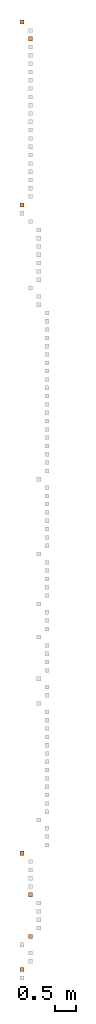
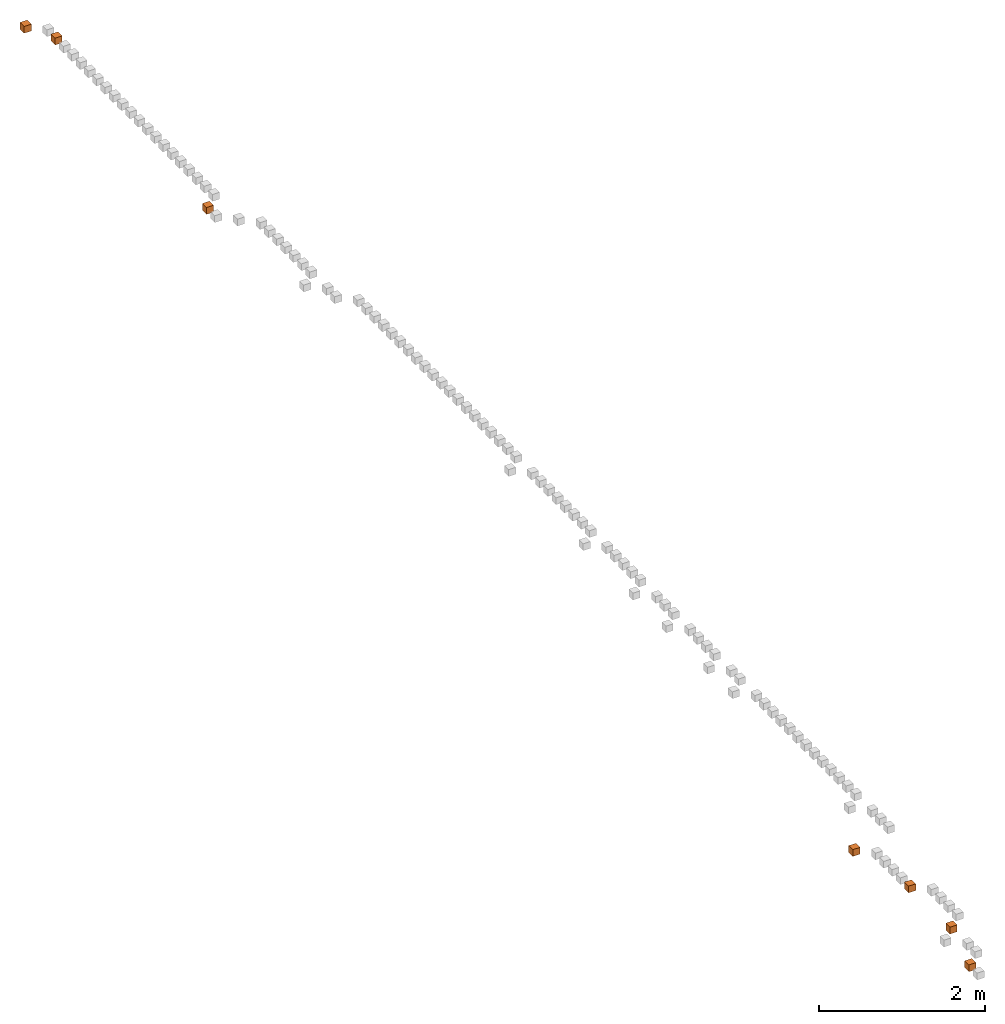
# One storey, part 7 of 7: 4 proxies, 1 civil element, 1 geographic element, 1 vibration isolator.
"""IFC4 building model written with IfcOpenShell, lengths in millimetres."""

from ifc_helpers import new_model, entity, si_unit, converted_unit, derived_unit, direction, frame, origin, origin_2d_with_axis, place, context, subcontext, project, spatial, rectangle, extrude, source, transform, mapped, material, type_object, type_shapes, element, save


model = new_model("IFC4")

# Units and contexts
model_context = context("Model", 3, precision=0.01, world=origin(), true_north=direction((6.12303176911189e-17, 1.0)))
body_context = subcontext(model_context, "Body", "Model", "MODEL_VIEW")
ifc_project = project(units=[si_unit("LENGTHUNIT", "METRE", prefix="MILLI"), si_unit("AREAUNIT", "SQUARE_METRE"), si_unit("VOLUMEUNIT", "CUBIC_METRE"), converted_unit("PLANEANGLEUNIT", "DEGREE", entity("IfcRatioMeasure", 0.0174532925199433), si_unit("PLANEANGLEUNIT", "RADIAN"), dimensions=[0, 0, 0, 0, 0, 0, 0]), si_unit("MASSUNIT", "GRAM", prefix="KILO"), derived_unit("MASSDENSITYUNIT", [(si_unit("MASSUNIT", "GRAM", prefix="KILO"), 1), (si_unit("LENGTHUNIT", "METRE"), -3)]), derived_unit("MOMENTOFINERTIAUNIT", [(si_unit("LENGTHUNIT", "METRE"), 4)]), si_unit("TIMEUNIT", "SECOND"), si_unit("FREQUENCYUNIT", "HERTZ"), si_unit("THERMODYNAMICTEMPERATUREUNIT", "DEGREE_CELSIUS"), derived_unit("THERMALTRANSMITTANCEUNIT", [(si_unit("MASSUNIT", "GRAM", prefix="KILO"), 1), (si_unit("THERMODYNAMICTEMPERATUREUNIT", "KELVIN"), -1), (si_unit("TIMEUNIT", "SECOND"), -3)]), derived_unit("VOLUMETRICFLOWRATEUNIT", [(si_unit("LENGTHUNIT", "METRE"), 3), (si_unit("TIMEUNIT", "SECOND"), -1)]), si_unit("ELECTRICCURRENTUNIT", "AMPERE"), si_unit("ELECTRICVOLTAGEUNIT", "VOLT"), si_unit("POWERUNIT", "WATT"), si_unit("FORCEUNIT", "NEWTON", prefix="KILO"), si_unit("ILLUMINANCEUNIT", "LUX"), si_unit("LUMINOUSFLUXUNIT", "LUMEN"), si_unit("LUMINOUSINTENSITYUNIT", "CANDELA"), derived_unit("USERDEFINED", [(si_unit("MASSUNIT", "GRAM", prefix="KILO"), -1), (si_unit("LENGTHUNIT", "METRE"), -2), (si_unit("TIMEUNIT", "SECOND"), 3), (si_unit("LUMINOUSFLUXUNIT", "LUMEN"), 1)]), derived_unit("LINEARVELOCITYUNIT", [(si_unit("LENGTHUNIT", "METRE"), 1), (si_unit("TIMEUNIT", "SECOND"), -1)]), si_unit("PRESSUREUNIT", "PASCAL"), derived_unit("USERDEFINED", [(si_unit("LENGTHUNIT", "METRE"), -2), (si_unit("MASSUNIT", "GRAM", prefix="KILO"), 1), (si_unit("TIMEUNIT", "SECOND"), -2)]), derived_unit("LINEARFORCEUNIT", [(si_unit("MASSUNIT", "GRAM", prefix="KILO"), 1), (si_unit("LENGTHUNIT", "METRE"), 1), (si_unit("TIMEUNIT", "SECOND"), -2), (si_unit("LENGTHUNIT", "METRE"), -1)]), derived_unit("PLANARFORCEUNIT", [(si_unit("MASSUNIT", "GRAM", prefix="KILO"), 1), (si_unit("LENGTHUNIT", "METRE"), 1), (si_unit("TIMEUNIT", "SECOND"), -2), (si_unit("LENGTHUNIT", "METRE"), -2)])], contexts=[model_context])

# Site, building, storey
site_placement = place(None, origin())
site = spatial("IfcSite", under=ifc_project, at=site_placement, Name="Default", CompositionType="ELEMENT")
building_placement = place(site_placement, origin())
building = spatial("IfcBuilding", under=site, at=building_placement, CompositionType="ELEMENT")
storey_placement = place(building_placement, origin())
storey = spatial("IfcBuildingStorey", under=building, at=storey_placement, Name="Level 1", CompositionType="ELEMENT", Elevation=0.0)

# Proxies
ifc_material = material(Name="<Unnamed>")
building_element_proxy_type = type_object("IfcBuildingElementProxyType", Name="Generic Ifc Family:Generic Ifc Family", PredefinedType="NOTDEFINED", material=ifc_material)
shared_shape_1 = source(origin(), body_context, "Body", "SweptSolid", [
    extrude(rectangle(XDim=100.0, YDim=100.0, at=origin_2d_with_axis()), frame((50.0, 50.0, 0.0), z_axis=(0.0, 0.0, 1.0), x_axis=(0.0, -1.0, 0.0)), (0.0, 0.0, 1.0), 100.0),
])
type_shapes(building_element_proxy_type, [shared_shape_1])
proxy_1_placement = place(storey_placement, frame((200.0, 23100.0, 0.0), z_axis=(0.0, 0.0, 1.0), x_axis=(0.0, -1.0, 0.0)))
element("IfcBuildingElementProxy", 1, at=proxy_1_placement, inside=storey, type_object=building_element_proxy_type, material=ifc_material, Name="Generic Ifc Family:Generic Ifc Family", ObjectType="Generic Ifc Family:Generic Ifc Family", PredefinedType="NOTDEFINED", context=body_context, shape_type="MappedRepresentation", body=[
    mapped(shared_shape_1, transform((0.0, 0.0, 0.0), scale=1.0)),
])
proxy_2_placement = place(storey_placement, frame((0.0, 23400.0, 0.0)))
element("IfcBuildingElementProxy", 2, at=proxy_2_placement, inside=storey, type_object=building_element_proxy_type, material=ifc_material, Name="Generic Ifc Family:Generic Ifc Family", ObjectType="Generic Ifc Family:Generic Ifc Family", PredefinedType="NOTDEFINED", context=body_context, shape_type="MappedRepresentation", body=[
    mapped(shared_shape_1, transform((0.0, 0.0, 0.0), scale=1.0)),
])
for number, where, z_axis, x_axis, name in (
    (3, (0.0, 3500.0, 0.0), (0.0, 0.0, 1.0), (0.0, -1.0, 0.0), "Generic Ifc Family:Generic Ifc Family"),
    (4, (200.0, 2500.0, 0.0), (0.0, 0.0, 1.0), (0.0, -1.0, 0.0), "Generic Ifc Family:Generic Ifc Family"),
):
    element("IfcBuildingElementProxy", number, at=place(storey_placement, frame(where, z_axis=z_axis, x_axis=x_axis)), inside=storey, type_object=building_element_proxy_type, material=ifc_material, Name=name, ObjectType="Generic Ifc Family:Generic Ifc Family", PredefinedType="NOTDEFINED", context=body_context, shape_type="MappedRepresentation", body=[
        mapped(shared_shape_1, transform((0.0, 0.0, 0.0), scale=1.0)),
    ])

# Civil element
civil_element_type = type_object("IfcCivilElementType", Name="Generic Ifc Family:Generic Ifc Family", material=ifc_material)
shared_shape_2 = source(origin(), body_context, "Body", "SweptSolid", [
    extrude(rectangle(XDim=100.0, YDim=100.0, at=origin_2d_with_axis()), frame((50.0, 50.0, 0.0), z_axis=(0.0, 0.0, 1.0), x_axis=(0.0, -1.0, 0.0)), (0.0, 0.0, 1.0), 100.0),
])
type_shapes(civil_element_type, [shared_shape_2])
civil_element_placement = place(storey_placement, frame((0.0, 19100.0, 0.0), z_axis=(0.0, 0.0, 1.0), x_axis=(0.0, -1.0, 0.0)))
element("IfcCivilElement", 5, at=civil_element_placement, inside=storey, type_object=civil_element_type, material=ifc_material, Name="Generic Ifc Family:Generic Ifc Family", ObjectType="Generic Ifc Family:Generic Ifc Family", context=body_context, shape_type="MappedRepresentation", body=[
    mapped(shared_shape_2, transform((0.0, 0.0, 0.0), scale=1.0)),
])

# Vibration isolator
vibration_isolator_type = type_object("IfcVibrationIsolatorType", Name="Generic Ifc Family:Generic Ifc Family", PredefinedType="NOTDEFINED", material=ifc_material)
shared_shape_3 = source(origin(), body_context, "Body", "SweptSolid", [
    extrude(rectangle(XDim=100.0, YDim=100.0, at=origin_2d_with_axis()), frame((50.0, 50.0, 0.0), z_axis=(0.0, 0.0, 1.0), x_axis=(0.0, -1.0, 0.0)), (0.0, 0.0, 1.0), 100.0),
])
type_shapes(vibration_isolator_type, [shared_shape_3])
vibration_isolator_placement = place(storey_placement, frame((200.0, 1500.0, 0.0), z_axis=(0.0, 0.0, 1.0), x_axis=(0.0, -1.0, 0.0)))
element("IfcVibrationIsolator", 6, at=vibration_isolator_placement, inside=storey, type_object=vibration_isolator_type, material=ifc_material, Name="Generic Ifc Family:Generic Ifc Family", ObjectType="Generic Ifc Family:Generic Ifc Family", PredefinedType="NOTDEFINED", context=body_context, shape_type="MappedRepresentation", body=[
    mapped(shared_shape_3, transform((0.0, 0.0, 0.0), scale=1.0)),
])

# Geographic element
geographic_element_type = type_object("IfcGeographicElementType", Name="Generic Ifc Family:Generic Ifc Family", PredefinedType="NOTDEFINED", material=ifc_material)
shared_shape_4 = source(origin(), body_context, "Body", "SweptSolid", [
    extrude(rectangle(XDim=100.0, YDim=100.0, at=origin_2d_with_axis()), frame((50.0, 50.0, 0.0), z_axis=(0.0, 0.0, 1.0), x_axis=(0.0, -1.0, 0.0)), (0.0, 0.0, 1.0), 100.0),
])
type_shapes(geographic_element_type, [shared_shape_4])
geographic_element_placement = place(storey_placement, frame((0.0, 700.0, 0.0), z_axis=(0.0, 0.0, 1.0), x_axis=(0.0, -1.0, 0.0)))
element("IfcGeographicElement", 7, at=geographic_element_placement, inside=storey, type_object=geographic_element_type, material=ifc_material, Name="Generic Ifc Family:Generic Ifc Family", ObjectType="Generic Ifc Family:Generic Ifc Family", PredefinedType="NOTDEFINED", context=body_context, shape_type="MappedRepresentation", body=[
    mapped(shared_shape_4, transform((0.0, 0.0, 0.0), scale=1.0)),
])

save(model, "model.ifc")
